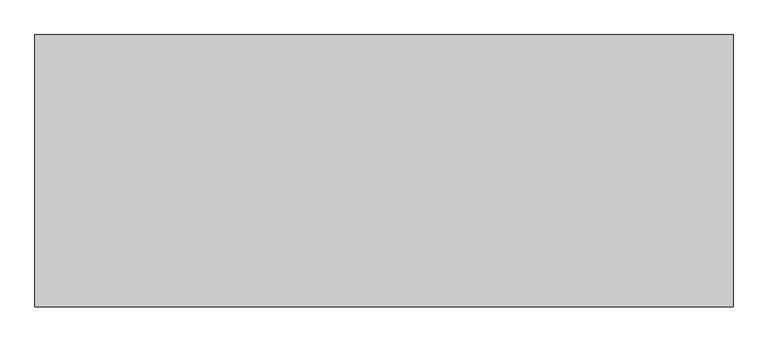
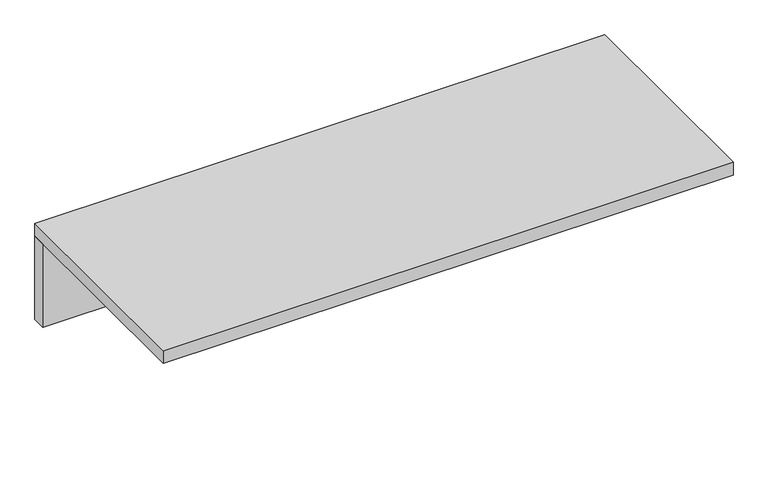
"""IFC4 building model written with IfcOpenShell, lengths in millimetres: furniture geometry."""

from ifc_helpers import new_model, si_unit, frame, origin, place, context, project, spatial, polyline, outline, extrude, source, transform, mapped, element, save


def furniture_f6e7f18d(model_context):
    return source(origin(), model_context, "Body", "SweptSolid", [
        extrude(outline(polyline([(533.4, 207.9625), (533.4, 182.5625), (-533.4, 182.5625), (-533.4, 207.9625), (533.4, 207.9625)])), frame((0.0, 0.0, 889.0), z_axis=(0.0, 0.0, 1.0), x_axis=(1.0, 0.0, 0.0)), (0.0, 0.0, 1.0), 165.1),
        extrude(outline(polyline([(533.4, -207.9625), (-533.4, -207.9625), (-533.4, 207.9625), (533.4, 207.9625), (533.4, -207.9625)])), frame((0.0, 0.0, 1054.1), z_axis=(0.0, 0.0, 1.0), x_axis=(1.0, 0.0, 0.0)), (0.0, 0.0, 1.0), 25.4),
    ])


if __name__ == "__main__":
    model = new_model("IFC4")
    model_context = context("Model", 3, world=origin())
    ifc_project = project(units=[si_unit("LENGTHUNIT", "METRE", prefix="MILLI")], contexts=[model_context])
    site = spatial("IfcSite", under=ifc_project)
    building = spatial("IfcBuilding", under=site)
    placement = place(None, origin())
    furniture_shape = furniture_f6e7f18d(model_context)
    element("IfcFurniture", 1, ObjectType="HermanMiller_Ethospace_E2830_SqEdgeCounterTop : 7-1/2\"H x 16-3/8\"D x 42\"W", at=placement, inside=building, context=model_context, shape_type="MappedRepresentation", body=[
        mapped(furniture_shape, transform((0.0, 0.0, 0.0), x_axis=(1.0, 0.0, 0.0), y_axis=(0.0, 1.0, 0.0), z_axis=(0.0, 0.0, 1.0))),
    ])
    save(model, "model.ifc")
